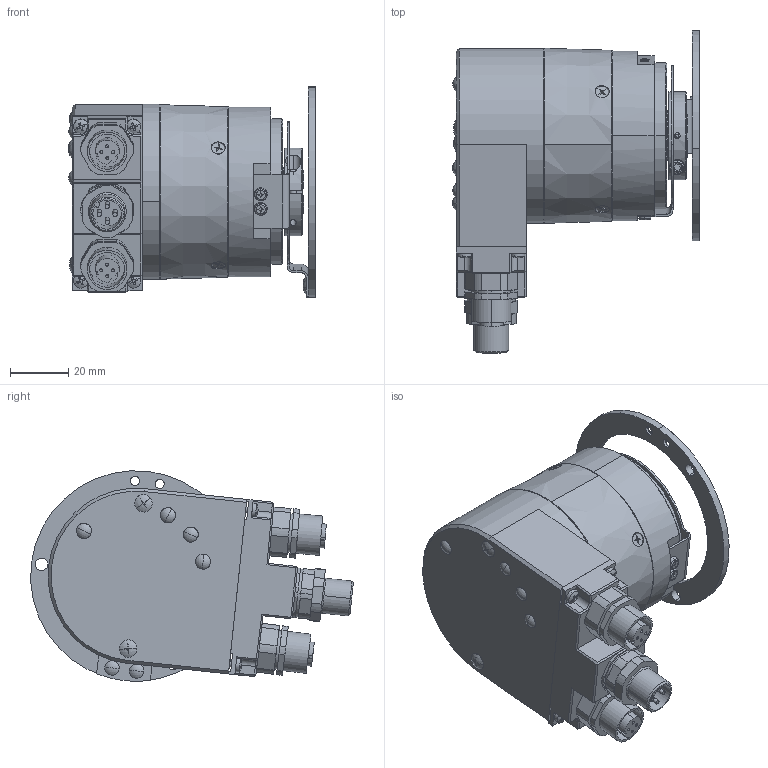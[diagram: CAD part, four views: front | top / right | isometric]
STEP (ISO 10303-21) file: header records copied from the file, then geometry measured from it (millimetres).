
FILE_DESCRIPTION (( 'STEP AP214' ), '1' );
FILE_NAME ('5878.34B2.XXXX.STEP', '2009-01-08T10:27:32', ( 'admin' ), ( 'Fritz Kübler GmbH' ), 'SwSTEP 2.0', 'SolidWorks 2008', '' );
FILE_SCHEMA (( 'AUTOMOTIVE_DESIGN' ));
Length unit declared in the file: millimetre
Products named in the file (1): 5878.34B2.XXXX
Bounding box: 84.4 x 110.32 x 71.93 mm (x, y, z)
Volume: 117494.4 mm3; surface area: 81406.5 mm2
Topology: 33 solids, 34 shells, 1545 faces, 3737 edges, 2337 vertices
Faces by surface type: plane 594, cylinder 570, cone 246, torus 94, sphere 24, bspline 17
Entity records: 63959 total; most frequent: CARTESIAN_POINT 9615, DIRECTION 8225, ORIENTED_EDGE 7386, EDGE_CURVE 3693, AXIS2_PLACEMENT_3D 3201, VERTEX_POINT 2337, VECTOR 1823, LINE 1823
